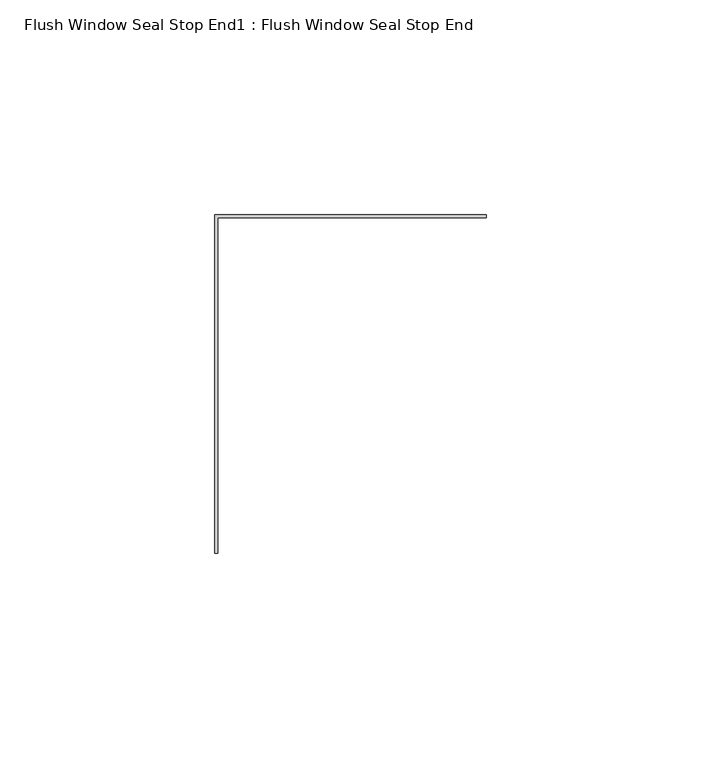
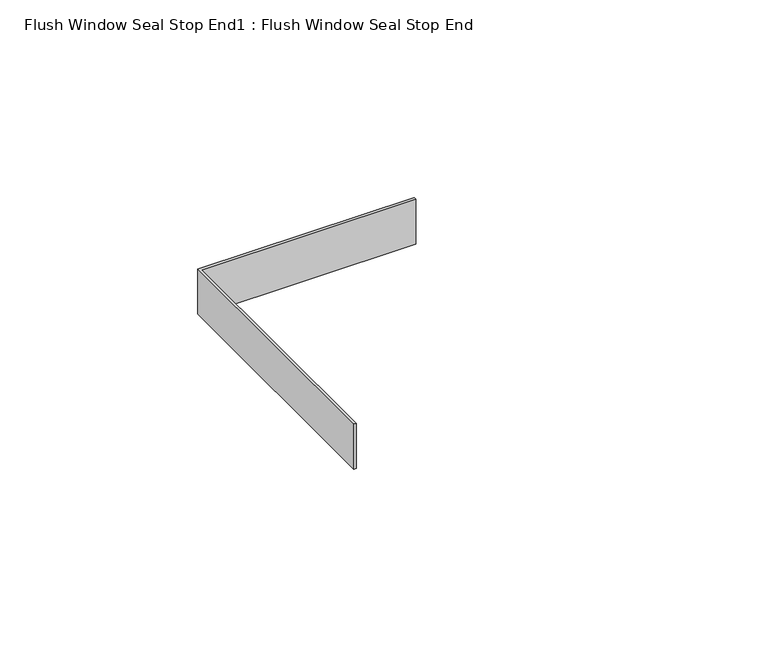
"""IFC4 building model written with IfcOpenShell, lengths in millimetres: proxy geometry, Flush Window Seal Stop End1 : Flush Window Seal Stop End."""

import ifcopenshell
import ifcopenshell.guid

model = None  # the IFC model being written
_history = None  # IfcOwnerHistory: only IFC2X3 demands one
_inside = {}  # id of a spatial element -> (the spatial element, [elements in it])
_under = {}  # id of a project, library or spatial element -> (it, [spatial elements below it])
_declared = {}  # id of a project -> (the project, [libraries it declares])
_typed = {}  # id of a type object -> (the type object, [elements of that type])
_made_of = {}  # id of a material, layer set ... -> (it, [elements and type objects made of it])


def new_model(schema):
    """Start an empty IFC model of exactly this schema.

    Asked for "IFC4X3", IfcOpenShell would pick the latest addendum, in which some entities
    have other attributes; the version numbers below select the first issue.
    IFC2X3 requires an IfcOwnerHistory on every rooted entity: one is made here for all.
    """
    global model, _history
    if schema == "IFC4X3":
        model = ifcopenshell.file(schema_version=(4, 3, 0, 0))
    else:
        model = ifcopenshell.file(schema=schema)
    _inside.clear()
    _under.clear()
    _declared.clear()
    _typed.clear()
    _made_of.clear()
    _history = None
    if model.schema == "IFC2X3":
        org = make("IfcOrganization", Name="unknown")
        user = make(
            "IfcPersonAndOrganization",
            ThePerson=make("IfcPerson", FamilyName="unknown"),
            TheOrganization=org,
        )
        app = make(
            "IfcApplication",
            ApplicationDeveloper=org,
            Version="unknown",
            ApplicationFullName="unknown",
            ApplicationIdentifier="unknown",
        )
        _history = make(
            "IfcOwnerHistory",
            OwningUser=user,
            OwningApplication=app,
            ChangeAction="ADDED",
            CreationDate=0,
        )
    return model


def make(cls, **values):
    """One entity of the class cls with the attributes given. An attribute that is None is left unset."""
    return model.create_entity(
        cls, **{name: value for name, value in values.items() if value is not None}
    )


def rooted(cls, **values):
    """An entity with a GlobalId (a new one), such as an element, a storey or a relation."""
    return make(cls, GlobalId=ifcopenshell.guid.new(), OwnerHistory=_history, **values)


def si_unit(unit_type, name, prefix=None):
    """IfcSIUnit, for example si_unit("LENGTHUNIT", "METRE", prefix="MILLI")."""
    return make("IfcSIUnit", UnitType=unit_type, Prefix=prefix, Name=name)


def assignment(units):
    """IfcUnitAssignment: the units of a project."""
    return None if units is None else make("IfcUnitAssignment", Units=units)


def point(xyz):
    """IfcCartesianPoint."""
    return None if xyz is None else make("IfcCartesianPoint", Coordinates=xyz)


def direction(xyz):
    """IfcDirection."""
    return None if xyz is None else make("IfcDirection", DirectionRatios=xyz)


def frame(location, z_axis=None, x_axis=None):
    """IfcAxis2Placement3D, a coordinate frame: its origin and axes. An axis left out is left unset."""
    return make(
        "IfcAxis2Placement3D",
        Location=point(location),
        Axis=direction(z_axis),
        RefDirection=direction(x_axis),
    )


def origin():
    """The frame at (0, 0, 0) with its axes left unset."""
    return frame((0.0, 0.0, 0.0))


def place(relative_to, where):
    """IfcLocalPlacement: puts the frame where relative to a parent placement (None: the world)."""
    return make(
        "IfcLocalPlacement", PlacementRelTo=relative_to, RelativePlacement=where
    )


def context(
    kind, dimensions, precision=None, world=None, true_north=None, identifier=None
):
    """IfcGeometricRepresentationContext, for example the 3D "Model" context."""
    return make(
        "IfcGeometricRepresentationContext",
        ContextIdentifier=identifier,
        ContextType=kind,
        CoordinateSpaceDimension=dimensions,
        Precision=precision,
        WorldCoordinateSystem=world,
        TrueNorth=true_north,
    )


def project(units=None, contexts=None):
    """IfcProject with its units and contexts."""
    return rooted(
        "IfcProject",
        Name="project",
        RepresentationContexts=contexts,
        UnitsInContext=assignment(units),
    )


def spatial(cls, under=None, at=None, **own):
    """A site, building, storey or space (cls), placed at a placement, below another one or the project."""
    s = rooted(cls, ObjectPlacement=at, **own)
    if under is not None:
        _under.setdefault(under.id(), (under, []))[1].append(s)
    return s


def polyline(points):
    """IfcPolyline through the points."""
    return make("IfcPolyline", Points=[point(p) for p in points])


def outline(outer, holes=None, kind="AREA"):
    """IfcArbitraryClosedProfileDef: a profile drawn as a closed curve; with holes, ...WithVoids."""
    if holes is None:
        return make("IfcArbitraryClosedProfileDef", ProfileType=kind, OuterCurve=outer)
    return make(
        "IfcArbitraryProfileDefWithVoids",
        ProfileType=kind,
        OuterCurve=outer,
        InnerCurves=holes,
    )


def extrude(swept, where, along, depth):
    """IfcExtrudedAreaSolid: the profile swept, set in the frame where, extruded along a direction by depth."""
    return make(
        "IfcExtrudedAreaSolid",
        SweptArea=swept,
        Position=where,
        ExtrudedDirection=direction(along),
        Depth=depth,
    )


def shape(context_of_items, identifier, shape_type, items):
    """IfcShapeRepresentation: the items that make up one representation, for example the "Body"."""
    return make(
        "IfcShapeRepresentation",
        ContextOfItems=context_of_items,
        RepresentationIdentifier=identifier,
        RepresentationType=shape_type,
        Items=items,
    )


def source(mapping_origin, context_of_items, identifier, shape_type, items):
    """IfcRepresentationMap: a shape defined once, which mapped items show again and again."""
    return make(
        "IfcRepresentationMap",
        MappingOrigin=mapping_origin,
        MappedRepresentation=shape(context_of_items, identifier, shape_type, items),
    )


def transform(
    local_origin,
    x_axis=None,
    y_axis=None,
    z_axis=None,
    scale=None,
    scale2=None,
    scale3=None,
    uniform=True,
):
    """IfcCartesianTransformationOperator3D, or its non-uniform kind. x_axis, y_axis, z_axis: its Axis1, 2, 3."""
    if uniform:
        return make(
            "IfcCartesianTransformationOperator3D",
            Axis1=direction(x_axis),
            Axis2=direction(y_axis),
            LocalOrigin=point(local_origin),
            Scale=scale,
            Axis3=direction(z_axis),
        )
    return make(
        "IfcCartesianTransformationOperator3DnonUniform",
        Axis1=direction(x_axis),
        Axis2=direction(y_axis),
        LocalOrigin=point(local_origin),
        Scale=scale,
        Axis3=direction(z_axis),
        Scale2=scale2,
        Scale3=scale3,
    )


def mapped(mapping_source, mapping_target):
    """IfcMappedItem: shows the shape of a source again, moved by a transform."""
    return make(
        "IfcMappedItem", MappingSource=mapping_source, MappingTarget=mapping_target
    )


def made_of(thing, what):
    """Note that an element or type object is made of a material, layer set ...; save() writes the relation."""
    if what is not None:
        _made_of.setdefault(what.id(), (what, []))[1].append(thing)
    return thing


def element(
    cls,
    number,
    at=None,
    inside=None,
    cuts=None,
    type_object=None,
    material=None,
    context=None,
    identifier="Body",
    shape_type=None,
    held_by="IfcProductDefinitionShape",
    body=None,
    shapes=None,
    **own,
):
    """One element of the class cls, such as IfcWall. Its Tag is "e" and its number.

    at: its placement. inside: the storey or other place that contains it. cuts: it is an
    opening in that element (IfcRelVoidsElement). A single representation is given by context,
    identifier, shape_type and body (its items); several are given by shapes. held_by: the class
    of the entity that holds the representations. save() writes the other relations.
    """
    e = rooted(cls, Tag="e%d" % number, ObjectPlacement=at, **own)
    if body is not None:
        shapes = [shape(context, identifier, shape_type, body)]
    if shapes is not None:
        e.Representation = make(held_by, Representations=shapes)
    if inside is not None:
        _inside.setdefault(inside.id(), (inside, []))[1].append(e)
    if cuts is not None:
        rooted(
            "IfcRelVoidsElement", RelatingBuildingElement=cuts, RelatedOpeningElement=e
        )
    if type_object is not None:
        _typed.setdefault(type_object.id(), (type_object, []))[1].append(e)
    return made_of(e, material)


def aggregate(whole, parts):
    """IfcRelAggregates: a whole, such as a stair, and the parts it consists of."""
    return rooted("IfcRelAggregates", RelatingObject=whole, RelatedObjects=parts)


def save(model, path):
    """Write the relations noted so far, then the file.

    IfcRelAggregates (storeys below a building ...), IfcRelContainedInSpatialStructure (elements
    in a storey), IfcRelDefinesByType, IfcRelAssociatesMaterial and IfcRelDeclares: one each for
    every whole, place, type object, material and project.
    """
    for whole, parts in _under.values():
        aggregate(whole, parts)
    for where, things in _inside.values():
        rooted(
            "IfcRelContainedInSpatialStructure",
            RelatedElements=things,
            RelatingStructure=where,
        )
    for kind, things in _typed.values():
        rooted("IfcRelDefinesByType", RelatedObjects=things, RelatingType=kind)
    for what, things in _made_of.values():
        rooted("IfcRelAssociatesMaterial", RelatedObjects=things, RelatingMaterial=what)
    for by, libraries in _declared.values():
        rooted("IfcRelDeclares", RelatingContext=by, RelatedDefinitions=libraries)
    model.write(path)


def flush_window_seal_stop_end1_flush_window_seal_stop_end_9bf39d72(model_context):
    return source(origin(), model_context, "Body", "SweptSolid", [
        extrude(outline(polyline([(15940.310775, -20796.9866572), (15939.5223206, -20796.9866572), (15939.5223206, -20717.9886752), (16002.834238, -20717.9886752), (16002.834238, -20718.7771296), (15940.310775, -20718.7771296), (15940.310775, -20796.9866572)])), frame((0.0, 0.0, -885.662203), z_axis=(0.0, 0.0, 1.0), x_axis=(1.0, 0.0, 0.0)), (0.0, 0.0, 1.0), 13.937585),
    ])


if __name__ == "__main__":
    model = new_model("IFC4")
    model_context = context("Model", 3, world=origin())
    ifc_project = project(units=[si_unit("LENGTHUNIT", "METRE", prefix="MILLI")], contexts=[model_context])
    site = spatial("IfcSite", under=ifc_project)
    building = spatial("IfcBuilding", under=site)
    placement = place(None, origin())
    flush_window_seal_stop_end1_flush_window_seal_stop_end_shape = flush_window_seal_stop_end1_flush_window_seal_stop_end_9bf39d72(model_context)
    element("IfcBuildingElementProxy", 1, Name="Flush Window Seal Stop End1 : Flush Window Seal Stop End", ObjectType="Flush Window Seal Stop End1 : Flush Window Seal Stop End", at=placement, inside=building, context=model_context, shape_type="MappedRepresentation", body=[
        mapped(flush_window_seal_stop_end1_flush_window_seal_stop_end_shape, transform((0.0, 0.0, 0.0), x_axis=(1.0, 0.0, 0.0), y_axis=(0.0, 1.0, 0.0), z_axis=(0.0, 0.0, 1.0))),
    ])
    save(model, "model.ifc")
